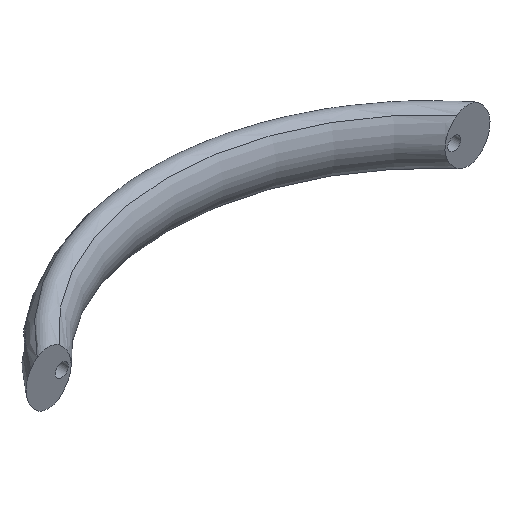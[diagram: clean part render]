
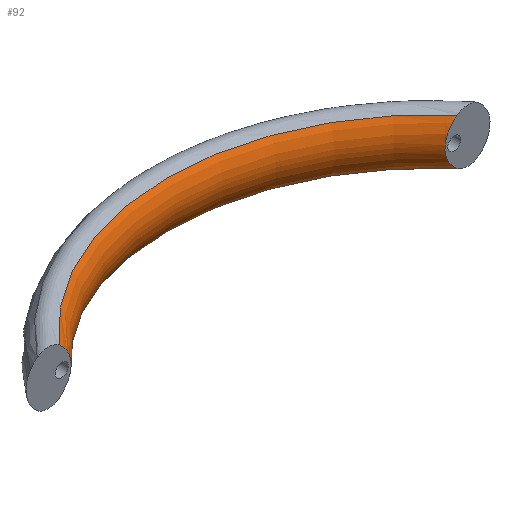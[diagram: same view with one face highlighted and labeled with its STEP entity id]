
A CAD part, isometric view. The second image highlights one B-rep face of the part: STEP entity #92.
In plain terms, the highlighted toroidal (fillet/blend) face has major radius 141.457 mm and minor radius 16.946 mm.
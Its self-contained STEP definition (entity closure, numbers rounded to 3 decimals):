
#92 = ADVANCED_FACE( '', ( #141 ), #142, .T. );
#141 = FACE_OUTER_BOUND( '', #193, .T. );
#142 = TOROIDAL_SURFACE( '', #194, 141.457, 16.946 );
#193 = EDGE_LOOP( '', ( #314, #315, #316, #317 ) );
#194 = AXIS2_PLACEMENT_3D( '', #318, #319, #320 );
#314 = ORIENTED_EDGE( '', *, *, #370, .F. );
#315 = ORIENTED_EDGE( '', *, *, #371, .T. );
#316 = ORIENTED_EDGE( '', *, *, #372, .T. );
#317 = ORIENTED_EDGE( '', *, *, #359, .T. );
#318 = CARTESIAN_POINT( '', ( 0., -84.511, 0. ) );
#319 = DIRECTION( '', ( 0., 0., -1. ) );
#320 = DIRECTION( '', ( -1., 0., 0. ) );
#359 = EDGE_CURVE( '', #418, #415, #419, .T. );
#370 = EDGE_CURVE( '', #433, #415, #435, .T. );
#371 = EDGE_CURVE( '', #433, #436, #437, .T. );
#372 = EDGE_CURVE( '', #436, #418, #438, .T. );
#415 = VERTEX_POINT( '', #589 );
#418 = VERTEX_POINT( '', #607 );
#419 = B_SPLINE_CURVE_WITH_KNOTS( '', 3, ( #608, #609, #610, #611, #612, #613, #614, #615, #616, #617, #618, #619, #620, #621, #622, #623, #624, #625, #626, #627, #628, #629, #630, #631, #632, #633, #634, #635 ), .UNSPECIFIED., .F., .F., ( 4, 2, 2, 2, 2, 2, 2, 2, 2, 2, 2, 2, 2, 4 ), ( 0.111, 0.114, 0.116, 0.118, 0.119, 0.12, 0.121, 0.124, 0.128, 0.129, 0.131, 0.132, 0.134, 0.137 ), .UNSPECIFIED. );
#433 = VERTEX_POINT( '', #742 );
#435 = CIRCLE( '', #763, 128.842 );
#436 = VERTEX_POINT( '', #764 );
#437 = B_SPLINE_CURVE_WITH_KNOTS( '', 3, ( #765, #766, #767, #768, #769, #770, #771, #772, #773, #774, #775, #776, #777, #778, #779, #780, #781, #782, #783, #784, #785, #786, #787, #788, #789, #790, #791, #792, #793, #794, #795, #796 ), .UNSPECIFIED., .F., .F., ( 4, 2, 2, 2, 2, 2, 2, 2, 2, 2, 2, 2, 2, 2, 2, 4 ), ( 0.062, 0.063, 0.065, 0.067, 0.068, 0.072, 0.073, 0.075, 0.076, 0.077, 0.078, 0.08, 0.081, 0.085, 0.086, 0.088 ), .UNSPECIFIED. );
#438 = CIRCLE( '', #797, 128.842 );
#589 = CARTESIAN_POINT( '', ( 97.253, 0., 11.315 ) );
#607 = CARTESIAN_POINT( '', ( 97.253, 0., -11.315 ) );
#608 = CARTESIAN_POINT( '', ( 97.253, 0., -11.315 ) );
#609 = CARTESIAN_POINT( '', ( 96.419, 0., -10.613 ) );
#610 = CARTESIAN_POINT( '', ( 95.64, 0., -9.846 ) );
#611 = CARTESIAN_POINT( '', ( 94.576, 0., -8.576 ) );
#612 = CARTESIAN_POINT( '', ( 94.242, 0., -8.138 ) );
#613 = CARTESIAN_POINT( '', ( 93.624, 0., -7.235 ) );
#614 = CARTESIAN_POINT( '', ( 93.339, 0., -6.77 ) );
#615 = CARTESIAN_POINT( '', ( 92.821, 0., -5.811 ) );
#616 = CARTESIAN_POINT( '', ( 92.587, 0., -5.316 ) );
#617 = CARTESIAN_POINT( '', ( 92.28, 0., -4.55 ) );
#618 = CARTESIAN_POINT( '', ( 92.185, 0., -4.29 ) );
#619 = CARTESIAN_POINT( '', ( 92.011, 0., -3.766 ) );
#620 = CARTESIAN_POINT( '', ( 91.933, 0., -3.503 ) );
#621 = CARTESIAN_POINT( '', ( 91.583, 0., -2.18 ) );
#622 = CARTESIAN_POINT( '', ( 91.437, 0., -1.1 ) );
#623 = CARTESIAN_POINT( '', ( 91.438, 0., 1.111 ) );
#624 = CARTESIAN_POINT( '', ( 91.585, 0., 2.194 ) );
#625 = CARTESIAN_POINT( '', ( 92.006, 0., 3.779 ) );
#626 = CARTESIAN_POINT( '', ( 92.182, 0., 4.305 ) );
#627 = CARTESIAN_POINT( '', ( 92.592, 0., 5.326 ) );
#628 = CARTESIAN_POINT( '', ( 92.825, 0., 5.82 ) );
#629 = CARTESIAN_POINT( '', ( 93.345, 0., 6.782 ) );
#630 = CARTESIAN_POINT( '', ( 93.632, 0., 7.248 ) );
#631 = CARTESIAN_POINT( '', ( 94.254, 0., 8.155 ) );
#632 = CARTESIAN_POINT( '', ( 94.59, 0., 8.594 ) );
#633 = CARTESIAN_POINT( '', ( 95.645, 0., 9.849 ) );
#634 = CARTESIAN_POINT( '', ( 96.419, 0., 10.613 ) );
#635 = CARTESIAN_POINT( '', ( 97.253, 0., 11.315 ) );
#742 = CARTESIAN_POINT( '', ( -97.253, 0., 11.315 ) );
#763 = AXIS2_PLACEMENT_3D( '', #874, #875, #876 );
#764 = CARTESIAN_POINT( '', ( -97.253, 0., -11.315 ) );
#765 = CARTESIAN_POINT( '', ( -97.253, 0., 11.315 ) );
#766 = CARTESIAN_POINT( '', ( -96.832, 0., 10.961 ) );
#767 = CARTESIAN_POINT( '', ( -96.427, 0., 10.591 ) );
#768 = CARTESIAN_POINT( '', ( -95.653, 0., 9.82 ) );
#769 = CARTESIAN_POINT( '', ( -95.283, 0., 9.42 ) );
#770 = CARTESIAN_POINT( '', ( -94.583, 0., 8.586 ) );
#771 = CARTESIAN_POINT( '', ( -94.252, 0., 8.153 ) );
#772 = CARTESIAN_POINT( '', ( -93.633, 0., 7.25 ) );
#773 = CARTESIAN_POINT( '', ( -93.343, 0., 6.777 ) );
#774 = CARTESIAN_POINT( '', ( -92.56, 0., 5.33 ) );
#775 = CARTESIAN_POINT( '', ( -92.15, 0., 4.32 ) );
#776 = CARTESIAN_POINT( '', ( -91.727, 0., 2.728 ) );
#777 = CARTESIAN_POINT( '', ( -91.618, 0., 2.183 ) );
#778 = CARTESIAN_POINT( '', ( -91.474, 0., 1.099 ) );
#779 = CARTESIAN_POINT( '', ( -91.438, 0., 0.556 ) );
#780 = CARTESIAN_POINT( '', ( -91.437, 0., -0.531 ) );
#781 = CARTESIAN_POINT( '', ( -91.472, 0., -1.076 ) );
#782 = CARTESIAN_POINT( '', ( -91.579, 0., -1.895 ) );
#783 = CARTESIAN_POINT( '', ( -91.624, 0., -2.168 ) );
#784 = CARTESIAN_POINT( '', ( -91.731, 0., -2.708 ) );
#785 = CARTESIAN_POINT( '', ( -91.793, 0., -2.975 ) );
#786 = CARTESIAN_POINT( '', ( -92.003, 0., -3.768 ) );
#787 = CARTESIAN_POINT( '', ( -92.175, 0., -4.286 ) );
#788 = CARTESIAN_POINT( '', ( -92.581, 0., -5.302 ) );
#789 = CARTESIAN_POINT( '', ( -92.816, 0., -5.803 ) );
#790 = CARTESIAN_POINT( '', ( -93.601, 0., -7.257 ) );
#791 = CARTESIAN_POINT( '', ( -94.223, 0., -8.156 ) );
#792 = CARTESIAN_POINT( '', ( -95.281, 0., -9.417 ) );
#793 = CARTESIAN_POINT( '', ( -95.656, 0., -9.824 ) );
#794 = CARTESIAN_POINT( '', ( -96.434, 0., -10.597 ) );
#795 = CARTESIAN_POINT( '', ( -96.837, 0., -10.965 ) );
#796 = CARTESIAN_POINT( '', ( -97.253, 0., -11.315 ) );
#797 = AXIS2_PLACEMENT_3D( '', #877, #878, #879 );
#874 = CARTESIAN_POINT( '', ( 0., -84.511, 11.315 ) );
#875 = DIRECTION( '', ( 0., 0., -1. ) );
#876 = DIRECTION( '', ( -1., 0., 0. ) );
#877 = CARTESIAN_POINT( '', ( 0., -84.511, -11.315 ) );
#878 = DIRECTION( '', ( 0., 0., -1. ) );
#879 = DIRECTION( '', ( -1., 0., 0. ) );
